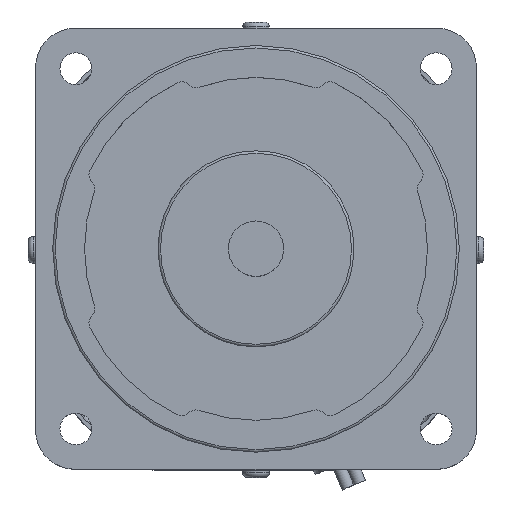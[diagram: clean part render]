
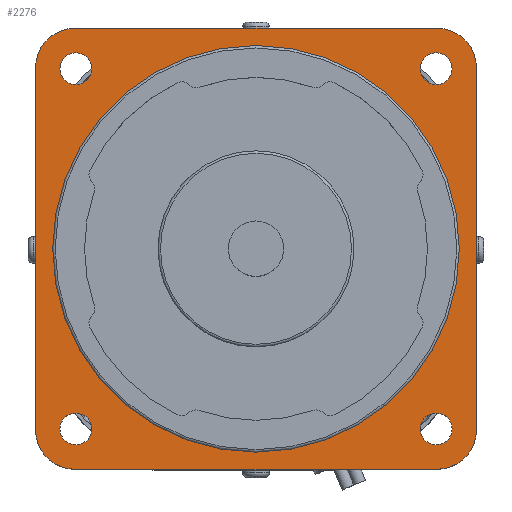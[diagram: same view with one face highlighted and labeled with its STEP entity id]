
A CAD part, top view. The second image highlights one B-rep face of the part: STEP entity #2276.
In plain terms, the highlighted planar face has unit normal (0, 0, 1).
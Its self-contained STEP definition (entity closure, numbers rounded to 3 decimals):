
#83=CARTESIAN_POINT('',(-45.0,-37.0,135.));
#84=VERTEX_POINT('',#83);
#91=CARTESIAN_POINT('',(-45.0,37.,135.));
#92=VERTEX_POINT('',#91);
#93=CARTESIAN_POINT('',(-45.0,-37.0,135.));
#94=DIRECTION('',(0.0,1.0,0.0));
#95=VECTOR('',#94,74.0);
#96=LINE('',#93,#95);
#97=EDGE_CURVE('',#84,#92,#96,.T.);
#1035=CARTESIAN_POINT('',(45.0,37.0,135.));
#1036=VERTEX_POINT('',#1035);
#1037=CARTESIAN_POINT('',(45.0,-37.,135.));
#1038=VERTEX_POINT('',#1037);
#1039=CARTESIAN_POINT('',(45.0,37.0,135.));
#1040=DIRECTION('',(0.0,-1.0,0.0));
#1041=VECTOR('',#1040,74.0);
#1042=LINE('',#1039,#1041);
#1043=EDGE_CURVE('',#1036,#1038,#1042,.T.);
#1091=CARTESIAN_POINT('',(40.02,36.77,135.));
#1092=VERTEX_POINT('',#1091);
#1093=CARTESIAN_POINT('',(36.77,36.77,135.));
#1094=DIRECTION('',(0.0,0.0,-1.0));
#1095=DIRECTION('',(-1.0,0.0,0.0));
#1096=AXIS2_PLACEMENT_3D('',#1093,#1094,#1095);
#1097=CIRCLE('',#1096,3.25);
#1098=EDGE_CURVE('',#1092,#1092,#1097,.T.);
#1117=CARTESIAN_POINT('',(37.,45.0,135.));
#1118=VERTEX_POINT('',#1117);
#1125=CARTESIAN_POINT('',(37.0,37.0,135.));
#1126=DIRECTION('',(0.0,0.0,-1.0));
#1127=DIRECTION('',(-1.0,0.0,0.0));
#1128=AXIS2_PLACEMENT_3D('',#1125,#1126,#1127);
#1129=CIRCLE('',#1128,8.);
#1130=EDGE_CURVE('',#1118,#1036,#1129,.T.);
#1144=CARTESIAN_POINT('',(40.02,-36.77,135.));
#1145=VERTEX_POINT('',#1144);
#1146=CARTESIAN_POINT('',(36.77,-36.77,135.));
#1147=DIRECTION('',(0.0,0.0,-1.0));
#1148=DIRECTION('',(-1.0,0.0,0.0));
#1149=AXIS2_PLACEMENT_3D('',#1146,#1147,#1148);
#1150=CIRCLE('',#1149,3.25);
#1151=EDGE_CURVE('',#1145,#1145,#1150,.T.);
#1163=CARTESIAN_POINT('',(37.0,-45.0,135.));
#1164=VERTEX_POINT('',#1163);
#1165=CARTESIAN_POINT('',(37.0,-37.0,135.));
#1166=DIRECTION('',(0.0,0.0,-1.0));
#1167=DIRECTION('',(0.0,1.0,0.0));
#1168=AXIS2_PLACEMENT_3D('',#1165,#1166,#1167);
#1169=CIRCLE('',#1168,8.);
#1170=EDGE_CURVE('',#1038,#1164,#1169,.T.);
#1189=CARTESIAN_POINT('',(-33.52,36.77,135.));
#1190=VERTEX_POINT('',#1189);
#1191=CARTESIAN_POINT('',(-36.77,36.77,135.));
#1192=DIRECTION('',(0.0,0.0,-1.0));
#1193=DIRECTION('',(-1.0,0.0,0.0));
#1194=AXIS2_PLACEMENT_3D('',#1191,#1192,#1193);
#1195=CIRCLE('',#1194,3.25);
#1196=EDGE_CURVE('',#1190,#1190,#1195,.T.);
#1206=CARTESIAN_POINT('',(-37.0,45.0,135.));
#1207=VERTEX_POINT('',#1206);
#1208=CARTESIAN_POINT('',(-37.0,45.0,135.));
#1209=DIRECTION('',(1.0,0.0,0.0));
#1210=VECTOR('',#1209,74.0);
#1211=LINE('',#1208,#1210);
#1212=EDGE_CURVE('',#1207,#1118,#1211,.T.);
#1251=CARTESIAN_POINT('',(-37.0,37.0,135.));
#1252=DIRECTION('',(0.0,0.0,-1.0));
#1253=DIRECTION('',(0.0,-1.0,0.0));
#1254=AXIS2_PLACEMENT_3D('',#1251,#1252,#1253);
#1255=CIRCLE('',#1254,8.);
#1256=EDGE_CURVE('',#92,#1207,#1255,.T.);
#1270=CARTESIAN_POINT('',(-33.52,-36.77,135.));
#1271=VERTEX_POINT('',#1270);
#1272=CARTESIAN_POINT('',(-36.77,-36.77,135.));
#1273=DIRECTION('',(0.0,0.0,-1.0));
#1274=DIRECTION('',(-1.0,0.0,0.0));
#1275=AXIS2_PLACEMENT_3D('',#1272,#1273,#1274);
#1276=CIRCLE('',#1275,3.25);
#1277=EDGE_CURVE('',#1271,#1271,#1276,.T.);
#1296=CARTESIAN_POINT('',(-37.,-45.0,135.));
#1297=VERTEX_POINT('',#1296);
#1304=CARTESIAN_POINT('',(-37.0,-37.0,135.));
#1305=DIRECTION('',(0.0,0.0,-1.0));
#1306=DIRECTION('',(1.0,0.0,0.0));
#1307=AXIS2_PLACEMENT_3D('',#1304,#1305,#1306);
#1308=CIRCLE('',#1307,8.);
#1309=EDGE_CURVE('',#1297,#84,#1308,.T.);
#1320=CARTESIAN_POINT('',(37.0,-45.0,135.));
#1321=DIRECTION('',(-1.0,0.0,0.0));
#1322=VECTOR('',#1321,74.0);
#1323=LINE('',#1320,#1322);
#1324=EDGE_CURVE('',#1164,#1297,#1323,.T.);
#2231=CARTESIAN_POINT('',(41.5,0.,135.));
#2232=VERTEX_POINT('',#2231);
#2233=CARTESIAN_POINT('',(0.,0.,135.));
#2234=DIRECTION('',(0.0,0.0,-1.0));
#2235=DIRECTION('',(-1.0,0.0,0.0));
#2236=AXIS2_PLACEMENT_3D('',#2233,#2234,#2235);
#2237=CIRCLE('',#2236,41.5);
#2238=EDGE_CURVE('',#2232,#2232,#2237,.T.);
#2246=CARTESIAN_POINT('',(0.,0.,135.));
#2247=DIRECTION('',(0.0,0.0,-1.0));
#2248=DIRECTION('',(-1.0,0.0,0.0));
#2249=AXIS2_PLACEMENT_3D('',#2246,#2247,#2248);
#2250=PLANE('',#2249);
#2251=ORIENTED_EDGE('',*,*,#1043,.F.);
#2252=ORIENTED_EDGE('',*,*,#1130,.F.);
#2253=ORIENTED_EDGE('',*,*,#1212,.F.);
#2254=ORIENTED_EDGE('',*,*,#1256,.F.);
#2255=ORIENTED_EDGE('',*,*,#97,.F.);
#2256=ORIENTED_EDGE('',*,*,#1309,.F.);
#2257=ORIENTED_EDGE('',*,*,#1324,.F.);
#2258=ORIENTED_EDGE('',*,*,#1170,.F.);
#2259=EDGE_LOOP('',(#2251,#2252,#2253,#2254,#2255,#2256,#2257,#2258));
#2260=FACE_OUTER_BOUND('',#2259,.T.);
#2261=ORIENTED_EDGE('',*,*,#2238,.T.);
#2262=EDGE_LOOP('',(#2261));
#2263=FACE_BOUND('',#2262,.T.);
#2264=ORIENTED_EDGE('',*,*,#1196,.T.);
#2265=EDGE_LOOP('',(#2264));
#2266=FACE_BOUND('',#2265,.T.);
#2267=ORIENTED_EDGE('',*,*,#1277,.T.);
#2268=EDGE_LOOP('',(#2267));
#2269=FACE_BOUND('',#2268,.T.);
#2270=ORIENTED_EDGE('',*,*,#1151,.T.);
#2271=EDGE_LOOP('',(#2270));
#2272=FACE_BOUND('',#2271,.T.);
#2273=ORIENTED_EDGE('',*,*,#1098,.T.);
#2274=EDGE_LOOP('',(#2273));
#2275=FACE_BOUND('',#2274,.T.);
#2276=ADVANCED_FACE('',(#2260,#2263,#2266,#2269,#2272,#2275),#2250,.F.);
